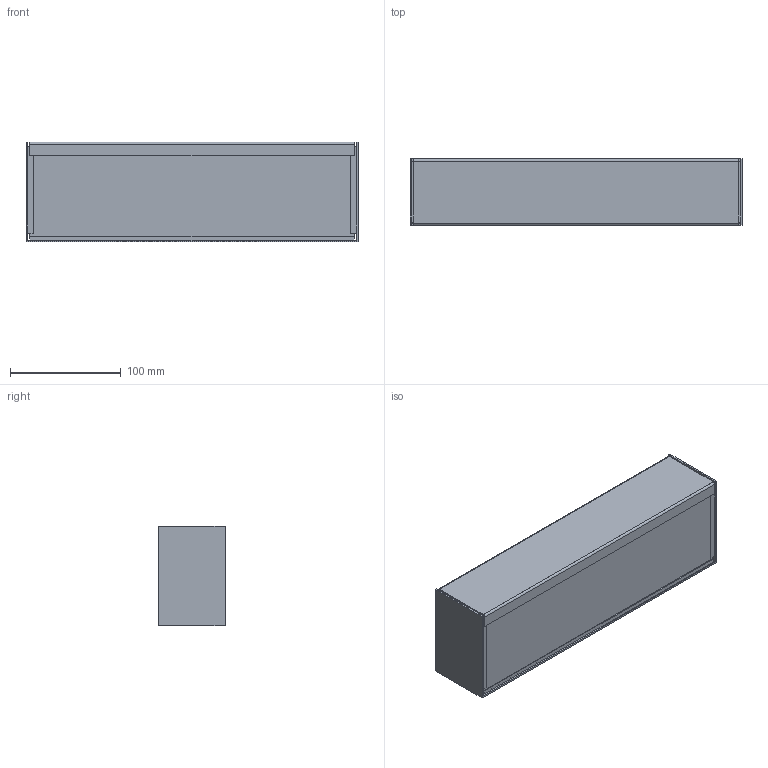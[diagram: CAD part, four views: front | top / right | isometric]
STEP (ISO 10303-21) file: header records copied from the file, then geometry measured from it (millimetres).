
FILE_DESCRIPTION(/* description */ (''),/* implementation_level */ '2;1');
FILE_NAME(/* name */ 'C:\Users\Giulia\Desktop\1748 - DUET.stp',/* time_stamp */ '2015-04-23T11:54:40+02:00',/* author */ ('Giulia'),/* organization */ (''),/* preprocessor_version */ 'ST-DEVELOPER v15.6',/* originating_system */ 'Autodesk Inventor 2015',/* authorisation */ '');
FILE_SCHEMA (('AUTOMOTIVE_DESIGN { 1 0 10303 214 3 1 1 }'));
Length unit declared in the file: centimetre
Products named in the file (1): 1748 - DUET
Bounding box: 300 x 60.25 x 90 mm (x, y, z)
Volume: 206037.2 mm3; surface area: 205137.2 mm2
Topology: 1 solids, 1 shells, 82 faces, 220 edges, 136 vertices
Faces by surface type: plane 74, cylinder 8
Entity records: 2528 total; most frequent: ORIENTED_EDGE 440, CARTESIAN_POINT 439, DIRECTION 402, EDGE_CURVE 220, LINE 204, VECTOR 204, VERTEX_POINT 136, AXIS2_PLACEMENT_3D 99
